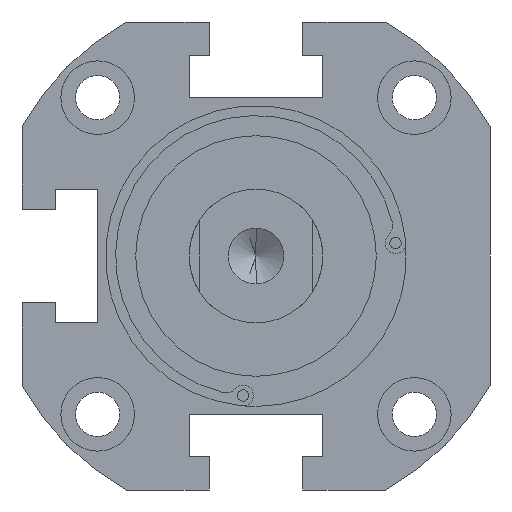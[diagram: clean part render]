
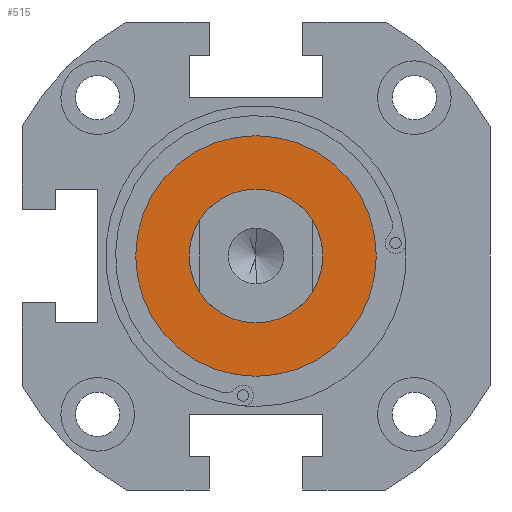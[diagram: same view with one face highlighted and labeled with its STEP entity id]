
A CAD part, front view. The second image highlights one B-rep face of the part: STEP entity #515.
In plain terms, the highlighted planar face has unit normal (0, -1, 0).
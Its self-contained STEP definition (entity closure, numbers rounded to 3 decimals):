
#304 = CARTESIAN_POINT ( 'NONE',  ( 0., -40., 0. ) ) ;
#515 = ADVANCED_FACE ( 'NONE', ( #2394, #4418 ), #593, .F. ) ;
#593 = PLANE ( 'NONE',  #3669 ) ;
#746 = CARTESIAN_POINT ( 'NONE',  ( 0., -40., 0. ) ) ;
#749 = ORIENTED_EDGE ( 'NONE', *, *, #1384, .F. ) ;
#828 = DIRECTION ( 'NONE',  ( 0., 0., 1. ) ) ;
#910 = AXIS2_PLACEMENT_3D ( 'NONE', #304, #3437, #1319 ) ;
#1038 = CARTESIAN_POINT ( 'NONE',  ( 0., -40., 18. ) ) ;
#1319 = DIRECTION ( 'NONE',  ( 0., 0., 1. ) ) ;
#1323 = EDGE_CURVE ( 'NONE', #2532, #4183, #3213, .T. ) ;
#1384 = EDGE_CURVE ( 'NONE', #2199, #3323, #4467, .T. ) ;
#1639 = EDGE_CURVE ( 'NONE', #4183, #2532, #2337, .T. ) ;
#1969 = DIRECTION ( 'NONE',  ( 0., 1., 0. ) ) ;
#2000 = DIRECTION ( 'NONE',  ( 0., 0., 1. ) ) ;
#2130 = AXIS2_PLACEMENT_3D ( 'NONE', #3615, #3629, #828 ) ;
#2199 = VERTEX_POINT ( 'NONE', #4264 ) ;
#2337 = CIRCLE ( 'NONE', #910, 10. ) ;
#2394 = FACE_OUTER_BOUND ( 'NONE', #3767, .T. ) ;
#2509 = DIRECTION ( 'NONE',  ( 0., 0., 1. ) ) ;
#2532 = VERTEX_POINT ( 'NONE', #3564 ) ;
#2571 = EDGE_LOOP ( 'NONE', ( #4517, #3150 ) ) ;
#2590 = AXIS2_PLACEMENT_3D ( 'NONE', #746, #3520, #3869 ) ;
#2668 = AXIS2_PLACEMENT_3D ( 'NONE', #3620, #3217, #2509 ) ;
#2677 = CARTESIAN_POINT ( 'NONE',  ( 0., -40., 0. ) ) ;
#3124 = CIRCLE ( 'NONE', #2668, 18. ) ;
#3150 = ORIENTED_EDGE ( 'NONE', *, *, #1639, .F. ) ;
#3213 = CIRCLE ( 'NONE', #2590, 10. ) ;
#3217 = DIRECTION ( 'NONE',  ( 0., 1., 0. ) ) ;
#3230 = CARTESIAN_POINT ( 'NONE',  ( 0., -40., -10. ) ) ;
#3323 = VERTEX_POINT ( 'NONE', #1038 ) ;
#3437 = DIRECTION ( 'NONE',  ( 0., -1., 0. ) ) ;
#3520 = DIRECTION ( 'NONE',  ( 0., -1., 0. ) ) ;
#3564 = CARTESIAN_POINT ( 'NONE',  ( 0., -40., 10. ) ) ;
#3615 = CARTESIAN_POINT ( 'NONE',  ( 0., -40., 0. ) ) ;
#3620 = CARTESIAN_POINT ( 'NONE',  ( 0., -40., 0. ) ) ;
#3629 = DIRECTION ( 'NONE',  ( 0., 1., 0. ) ) ;
#3669 = AXIS2_PLACEMENT_3D ( 'NONE', #2677, #1969, #2000 ) ;
#3767 = EDGE_LOOP ( 'NONE', ( #749, #3787 ) ) ;
#3787 = ORIENTED_EDGE ( 'NONE', *, *, #4092, .F. ) ;
#3869 = DIRECTION ( 'NONE',  ( 0., 0., 1. ) ) ;
#4092 = EDGE_CURVE ( 'NONE', #3323, #2199, #3124, .T. ) ;
#4183 = VERTEX_POINT ( 'NONE', #3230 ) ;
#4264 = CARTESIAN_POINT ( 'NONE',  ( 0., -40., -18. ) ) ;
#4418 = FACE_BOUND ( 'NONE', #2571, .T. ) ;
#4467 = CIRCLE ( 'NONE', #2130, 18. ) ;
#4517 = ORIENTED_EDGE ( 'NONE', *, *, #1323, .F. ) ;
